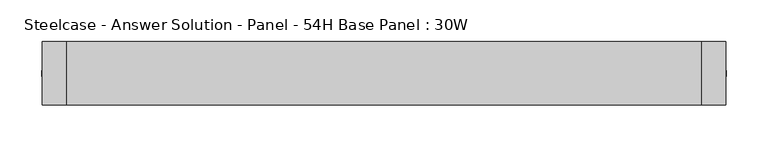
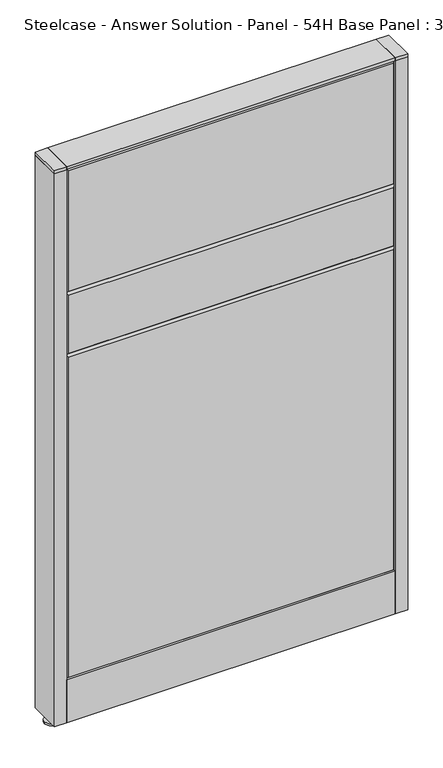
"""IFC4 building model written with IfcOpenShell, lengths in millimetres: furniture geometry, Steelcase - Answer Solution - Panel - 54H Base Panel : 30W."""

from ifc_helpers import new_model, si_unit, point, frame, frame_2d, origin, place, context, project, spatial, polyline, circle_curve, trimmed, segment, composite_curve, outline, extrude, faceted_brep, source, transform, mapped, element, save


def steelcase_answer_solution_panel_54h_base_panel_30w_8d493519(model_context):
    return source(origin(), model_context, "Body", "SolidModel", [
        extrude(outline(composite_curve([segment(trimmed(circle_curve(frame_2d((395.224, 0.0320214)), 5.08), [point((400.304, 0.0320214))], [point((390.144, 0.0320214))], False, "CARTESIAN"), True, "CONTINUOUS"), segment(trimmed(circle_curve(frame_2d((395.224, 0.0320214)), 5.08), [point((390.144, 0.0320214))], [point((400.304, 0.0320214))], False, "CARTESIAN"), True, "CONTINUOUS")], self_intersect=False)), frame((0.0, 0.0, 5.0799671), z_axis=(0.0, 0.0, 1.0), x_axis=(1.0, 0.0, 0.0)), (0.0, 0.0, 1.0), 10.414),
        extrude(outline(composite_curve([segment(trimmed(circle_curve(frame_2d((395.224, 0.0320214)), 15.24), [point((410.464, 0.0320214))], [point((379.984, 0.0320214))], False, "CARTESIAN"), True, "CONTINUOUS"), segment(trimmed(circle_curve(frame_2d((395.224, 0.0320214)), 15.24), [point((379.984, 0.0320214))], [point((410.464, 0.0320214))], False, "CARTESIAN"), True, "CONTINUOUS")], self_intersect=False)), frame((0.0, 0.0, -3.29e-05), z_axis=(0.0, 0.0, 1.0), x_axis=(1.0, 0.0, 0.0)), (0.0, 0.0, 1.0), 5.08),
        extrude(outline(polyline([(409.575, 38.1320408), (409.575, -38.0679592), (381.0, -38.0679592), (381.0, 38.1320408), (409.575, 38.1320408)])), frame((0.0, 0.0, 1370.6348), z_axis=(0.0, 0.0, 1.0), x_axis=(1.0, 0.0, 0.0)), (0.0, 0.0, 1.0), 7.3151671),
        extrude(outline(polyline([(409.575, 38.1320408), (409.575, -38.0679592), (381.0, -38.0679592), (381.0, 38.1320408), (409.575, 38.1320408)])), frame((0.0, 0.0, 15.4939671), z_axis=(0.0, 0.0, 1.0), x_axis=(1.0, 0.0, 0.0)), (0.0, 0.0, 1.0), 1355.1408329),
        extrude(outline(composite_curve([segment(trimmed(circle_curve(frame_2d((-395.224, 0.0320214)), 5.08), [point((-400.304, 0.0320214))], [point((-390.144, 0.0320214))], False, "CARTESIAN"), True, "CONTINUOUS"), segment(trimmed(circle_curve(frame_2d((-395.224, 0.0320214)), 5.08), [point((-390.144, 0.0320214))], [point((-400.304, 0.0320214))], False, "CARTESIAN"), True, "CONTINUOUS")], self_intersect=False)), frame((0.0, 0.0, 5.0799671), z_axis=(0.0, 0.0, 1.0), x_axis=(1.0, 0.0, 0.0)), (0.0, 0.0, 1.0), 10.414),
        extrude(outline(composite_curve([segment(trimmed(circle_curve(frame_2d((-395.224, 0.0320214)), 15.24), [point((-410.464, 0.0320214))], [point((-379.984, 0.0320214))], False, "CARTESIAN"), True, "CONTINUOUS"), segment(trimmed(circle_curve(frame_2d((-395.224, 0.0320214)), 15.24), [point((-379.984, 0.0320214))], [point((-410.464, 0.0320214))], False, "CARTESIAN"), True, "CONTINUOUS")], self_intersect=False)), frame((0.0, 0.0, -3.29e-05), z_axis=(0.0, 0.0, 1.0), x_axis=(1.0, 0.0, 0.0)), (0.0, 0.0, 1.0), 5.08),
        extrude(outline(polyline([(-409.575, 38.1320408), (-381.0, 38.1320408), (-381.0, -38.0679592), (-409.575, -38.0679592), (-409.575, 38.1320408)])), frame((0.0, 0.0, 1370.6348), z_axis=(0.0, 0.0, 1.0), x_axis=(1.0, 0.0, 0.0)), (0.0, 0.0, 1.0), 7.3151671),
        extrude(outline(polyline([(-409.575, 38.1320408), (-381.0, 38.1320408), (-381.0, -38.0679592), (-409.575, -38.0679592), (-409.575, 38.1320408)])), frame((0.0, 0.0, 15.4939671), z_axis=(0.0, 0.0, 1.0), x_axis=(1.0, 0.0, 0.0)), (0.0, 0.0, 1.0), 1355.1408329),
        faceted_brep([(-376.174, 38.1635011, 1366.774), (376.174, 38.1635011, 1366.774), (376.174, 38.1635011, 1071.626), (-376.174, 38.1635011, 1071.626), (-381.0, 33.3375011, 1371.6), (-381.0, 33.3375011, 1066.8), (381.0, 33.3375011, 1066.8), (381.0, 33.3375011, 1371.6)], [[[0, 1, 2, 3]], [[4, 5, 6, 7]], [[4, 7, 1, 0]], [[7, 6, 2, 1]], [[6, 5, 3, 2]], [[5, 4, 0, 3]]]),
        faceted_brep([(-376.174, 38.1635011, 1061.974), (376.174, 38.1635011, 1061.974), (376.174, 38.1635011, 919.226), (-376.174, 38.1635011, 919.226), (-381.0, 33.3375011, 1066.8), (-381.0, 33.3375011, 914.4), (381.0, 33.3375011, 914.4), (381.0, 33.3375011, 1066.8)], [[[0, 1, 2, 3]], [[4, 5, 6, 7]], [[4, 7, 1, 0]], [[7, 6, 2, 1]], [[6, 5, 3, 2]], [[5, 4, 0, 3]]]),
        faceted_brep([(-376.174, 38.1635011, 909.574), (376.174, 38.1635011, 909.574), (376.174, 38.1635011, 125.476), (-376.174, 38.1635011, 125.476), (-381.0, 33.3375011, 914.4), (-381.0, 33.3375011, 120.65), (381.0, 33.3375011, 120.65), (381.0, 33.3375011, 914.4)], [[[0, 1, 2, 3]], [[4, 5, 6, 7]], [[4, 7, 1, 0]], [[7, 6, 2, 1]], [[6, 5, 3, 2]], [[5, 4, 0, 3]]]),
        faceted_brep([(376.174, -38.1635011, 1366.774), (-376.174, -38.1635011, 1366.774), (-376.174, -38.1635011, 1071.626), (376.174, -38.1635011, 1071.626), (381.0, -33.3375011, 1371.6), (381.0, -33.3375011, 1066.8), (-381.0, -33.3375011, 1066.8), (-381.0, -33.3375011, 1371.6)], [[[0, 1, 2, 3]], [[4, 5, 6, 7]], [[4, 7, 1, 0]], [[7, 6, 2, 1]], [[6, 5, 3, 2]], [[5, 4, 0, 3]]]),
        faceted_brep([(376.174, -38.1635011, 1061.974), (-376.174, -38.1635011, 1061.974), (-376.174, -38.1635011, 919.226), (376.174, -38.1635011, 919.226), (381.0, -33.3375011, 1066.8), (381.0, -33.3375011, 914.4), (-381.0, -33.3375011, 914.4), (-381.0, -33.3375011, 1066.8)], [[[0, 1, 2, 3]], [[4, 5, 6, 7]], [[4, 7, 1, 0]], [[7, 6, 2, 1]], [[6, 5, 3, 2]], [[5, 4, 0, 3]]]),
        faceted_brep([(376.174, -38.1635011, 909.574), (-376.174, -38.1635011, 909.574), (-376.174, -38.1635011, 125.476), (376.174, -38.1635011, 125.476), (381.0, -33.3375011, 914.4), (381.0, -33.3375011, 120.65), (-381.0, -33.3375011, 120.65), (-381.0, -33.3375011, 914.4)], [[[0, 1, 2, 3]], [[4, 5, 6, 7]], [[4, 7, 1, 0]], [[7, 6, 2, 1]], [[6, 5, 3, 2]], [[5, 4, 0, 3]]]),
        extrude(outline(polyline([(381.0, 38.1000194), (381.0, -38.1000194), (-381.0, -38.1000194), (-381.0, 38.1000194), (381.0, 38.1000194)])), frame((0.0, 0.0, 1371.6), z_axis=(0.0, 0.0, 1.0), x_axis=(1.0, 0.0, 0.0)), (0.0, 0.0, 1.0), 6.35),
        extrude(outline(polyline([(25.4000011, 119.8575157), (25.4000011, 120.65), (38.1000194, 120.65), (38.1000194, 15.494), (37.3075215, 15.494), (37.3075215, 119.8575157), (25.4000011, 119.8575157)])), frame((-381.0, 0.0, 0.0), z_axis=(1.0, 0.0, 0.0), x_axis=(0.0, 1.0, 0.0)), (0.0, 0.0, 1.0), 762.0),
        extrude(outline(polyline([(-25.4000011, 119.8575157), (-37.3075215, 119.8575157), (-37.3075215, 15.494), (-38.1000194, 15.494), (-38.1000194, 120.65), (-25.4000011, 120.65), (-25.4000011, 119.8575157)])), frame((-381.0, 0.0, 0.0), z_axis=(1.0, 0.0, 0.0), x_axis=(0.0, 1.0, 0.0)), (0.0, 0.0, 1.0), 762.0),
    ])


if __name__ == "__main__":
    model = new_model("IFC4")
    model_context = context("Model", 3, world=origin())
    ifc_project = project(units=[si_unit("LENGTHUNIT", "METRE", prefix="MILLI")], contexts=[model_context])
    site = spatial("IfcSite", under=ifc_project)
    building = spatial("IfcBuilding", under=site)
    placement = place(None, origin())
    steelcase_answer_solution_panel_54h_base_panel_30w_shape = steelcase_answer_solution_panel_54h_base_panel_30w_8d493519(model_context)
    element("IfcFurniture", 1, ObjectType="Steelcase - Answer Solution - Panel - 54H Base Panel : 30W", at=placement, inside=building, context=model_context, shape_type="MappedRepresentation", body=[
        mapped(steelcase_answer_solution_panel_54h_base_panel_30w_shape, transform((0.0, 0.0, 0.0), x_axis=(1.0, 0.0, 0.0), y_axis=(0.0, 1.0, 0.0), z_axis=(0.0, 0.0, 1.0))),
    ])
    save(model, "model.ifc")
